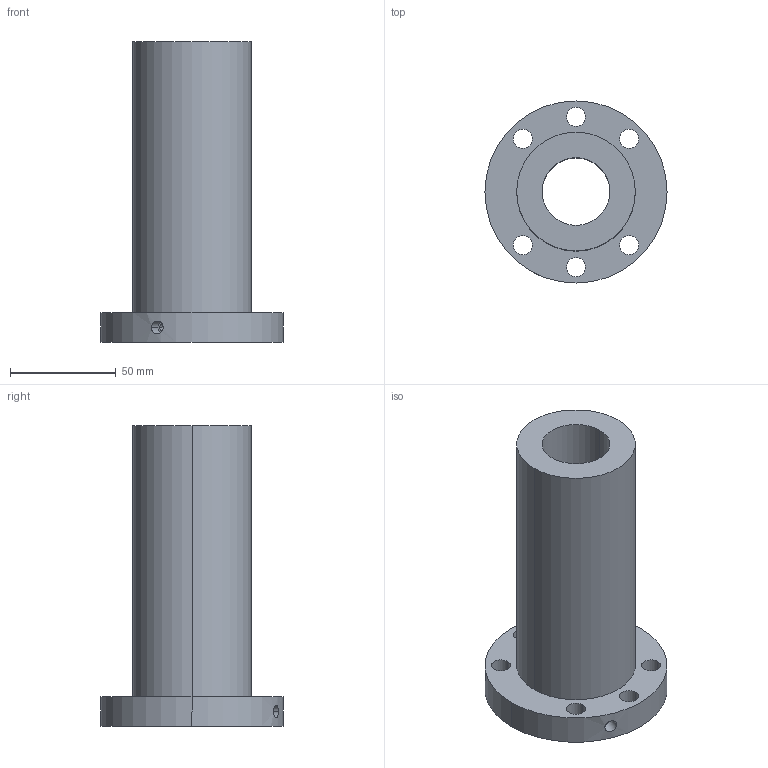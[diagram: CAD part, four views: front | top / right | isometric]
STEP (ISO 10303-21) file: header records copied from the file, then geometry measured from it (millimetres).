
FILE_DESCRIPTION((''),'2;1');
FILE_NAME('32-10K5_4763','2008-04-10T',('yanyu'),(''),'PRO/ENGINEER BY PARAMETRIC TECHNOLOGY CORPORATION, 2005070','PRO/ENGINEER BY PARAMETRIC TECHNOLOGY CORPORATION, 2005070','');
FILE_SCHEMA(('CONFIG_CONTROL_DESIGN'));
Length unit declared in the file: millimetre
Products named in the file (1): 32-10K5_4763
Bounding box: 86 x 86 x 142 mm (x, y, z)
Volume: 276576.7 mm3; surface area: 52561.7 mm2
Topology: 1 solids, 1 shells, 26 faces, 66 edges, 44 vertices
Faces by surface type: cylinder 22, plane 4
Entity records: 922 total; most frequent: CARTESIAN_POINT 186, DIRECTION 154, ORIENTED_EDGE 132, AXIS2_PLACEMENT_3D 66, EDGE_CURVE 66, VERTEX_POINT 44, EDGE_LOOP 44, CIRCLE 40
